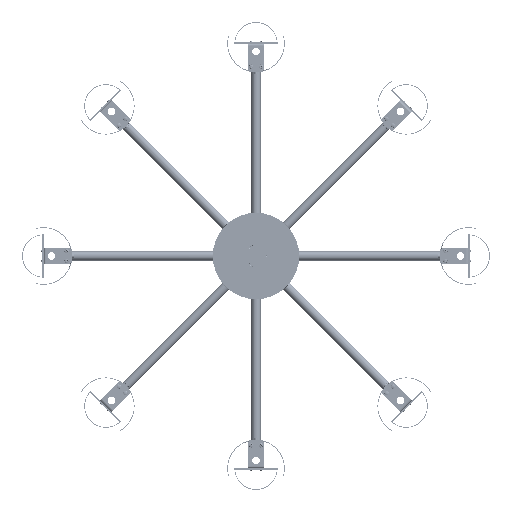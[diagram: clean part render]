
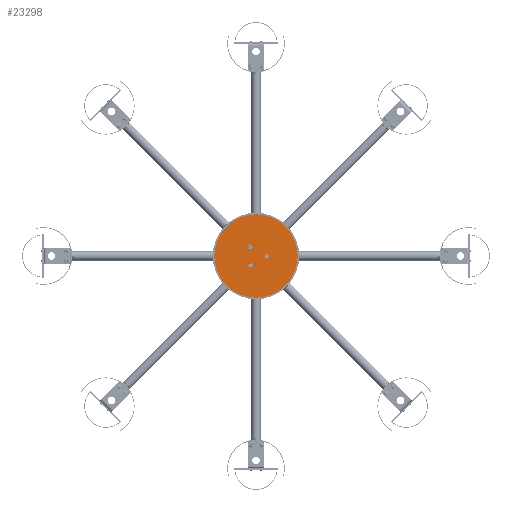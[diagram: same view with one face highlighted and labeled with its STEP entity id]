
A CAD part, front view. The second image highlights one B-rep face of the part: STEP entity #23298.
In plain terms, the highlighted planar face has unit normal (0, -1, 0) as drawn and (0, 1, 0) by its records, which use the part's own axes.
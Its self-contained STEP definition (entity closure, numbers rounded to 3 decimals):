
#23117=CARTESIAN_POINT('',(0.,1.5,0.));
#23118=DIRECTION('',(0.,1.,0.));
#23119=DIRECTION('',(1.,0.,0.));
#23120=AXIS2_PLACEMENT_3D('',#23117,#23118,#23119);
#23122=CARTESIAN_POINT('',(0.,1.5,0.));
#23123=DIRECTION('',(0.,1.,0.));
#23124=DIRECTION('',(-1.,0.,0.));
#23125=AXIS2_PLACEMENT_3D('',#23122,#23123,#23124);
#23127=CARTESIAN_POINT('',(15.,1.5,0.));
#23128=DIRECTION('',(0.,-1.,0.));
#23129=DIRECTION('',(-1.,0.,0.));
#23130=AXIS2_PLACEMENT_3D('',#23127,#23128,#23129);
#23132=CARTESIAN_POINT('',(15.,1.5,0.));
#23133=DIRECTION('',(0.,-1.,0.));
#23134=DIRECTION('',(1.,0.,0.));
#23135=AXIS2_PLACEMENT_3D('',#23132,#23133,#23134);
#23137=CARTESIAN_POINT('',(-7.5,1.5,-12.99));
#23138=DIRECTION('',(0.,-1.,0.));
#23139=DIRECTION('',(0.5,0.,0.866));
#23140=AXIS2_PLACEMENT_3D('',#23137,#23138,#23139);
#23142=CARTESIAN_POINT('',(-7.5,1.5,-12.99));
#23143=DIRECTION('',(0.,-1.,0.));
#23144=DIRECTION('',(-0.5,0.,-0.866));
#23145=AXIS2_PLACEMENT_3D('',#23142,#23143,#23144);
#23147=CARTESIAN_POINT('',(-7.5,1.5,12.99));
#23148=DIRECTION('',(0.,-1.,0.));
#23149=DIRECTION('',(0.5,0.,-0.866));
#23150=AXIS2_PLACEMENT_3D('',#23147,#23148,#23149);
#23152=CARTESIAN_POINT('',(-7.5,1.5,12.99));
#23153=DIRECTION('',(0.,-1.,0.));
#23154=DIRECTION('',(-0.5,0.,0.866));
#23155=AXIS2_PLACEMENT_3D('',#23152,#23153,#23154);
#23185=CARTESIAN_POINT('',(57.9,1.5,0.));
#23186=CARTESIAN_POINT('',(-57.9,1.5,0.));
#23187=VERTEX_POINT('',#23185);
#23188=VERTEX_POINT('',#23186);
#23189=CARTESIAN_POINT('',(11.9,1.5,0.));
#23190=CARTESIAN_POINT('',(18.1,1.5,0.));
#23191=VERTEX_POINT('',#23189);
#23192=VERTEX_POINT('',#23190);
#23197=CARTESIAN_POINT('',(-5.95,1.5,-10.306));
#23198=CARTESIAN_POINT('',(-9.05,1.5,-15.675));
#23199=VERTEX_POINT('',#23197);
#23200=VERTEX_POINT('',#23198);
#23205=CARTESIAN_POINT('',(-5.95,1.5,10.306));
#23206=CARTESIAN_POINT('',(-9.05,1.5,15.675));
#23207=VERTEX_POINT('',#23205);
#23208=VERTEX_POINT('',#23206);
#23271=CARTESIAN_POINT('',(0.,1.5,0.));
#23272=DIRECTION('',(0.,1.,0.));
#23273=DIRECTION('',(1.,0.,0.));
#23274=AXIS2_PLACEMENT_3D('',#23271,#23272,#23273);
#23275=PLANE('',#23274);
#23276=ORIENTED_EDGE('',*,*,#23251,.F.);
#23277=ORIENTED_EDGE('',*,*,#23265,.F.);
#23278=EDGE_LOOP('',(#23276,#23277));
#23279=FACE_OUTER_BOUND('',#23278,.F.);
#23281=ORIENTED_EDGE('',*,*,#23280,.F.);
#23283=ORIENTED_EDGE('',*,*,#23282,.F.);
#23284=EDGE_LOOP('',(#23281,#23283));
#23285=FACE_BOUND('',#23284,.F.);
#23287=ORIENTED_EDGE('',*,*,#23286,.F.);
#23289=ORIENTED_EDGE('',*,*,#23288,.F.);
#23290=EDGE_LOOP('',(#23287,#23289));
#23291=FACE_BOUND('',#23290,.F.);
#23293=ORIENTED_EDGE('',*,*,#23292,.F.);
#23295=ORIENTED_EDGE('',*,*,#23294,.F.);
#23296=EDGE_LOOP('',(#23293,#23295));
#23297=FACE_BOUND('',#23296,.F.);
#23298=ADVANCED_FACE('',(#23279,#23285,#23291,#23297),#23275,.T.);
#23121=CIRCLE('',#23120,57.9);
#23126=CIRCLE('',#23125,57.9);
#23131=CIRCLE('',#23130,3.1);
#23136=CIRCLE('',#23135,3.1);
#23141=CIRCLE('',#23140,3.1);
#23146=CIRCLE('',#23145,3.1);
#23151=CIRCLE('',#23150,3.1);
#23156=CIRCLE('',#23155,3.1);
#23251=EDGE_CURVE('',#23187,#23188,#23121,.T.);
#23265=EDGE_CURVE('',#23188,#23187,#23126,.T.);
#23280=EDGE_CURVE('',#23191,#23192,#23131,.T.);
#23282=EDGE_CURVE('',#23192,#23191,#23136,.T.);
#23286=EDGE_CURVE('',#23199,#23200,#23141,.T.);
#23288=EDGE_CURVE('',#23200,#23199,#23146,.T.);
#23292=EDGE_CURVE('',#23207,#23208,#23151,.T.);
#23294=EDGE_CURVE('',#23208,#23207,#23156,.T.);
